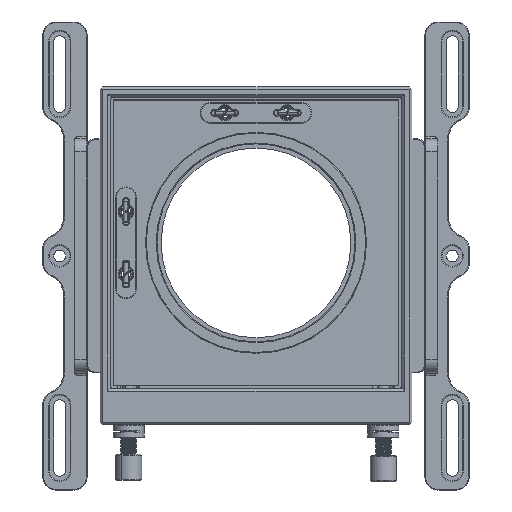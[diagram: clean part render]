
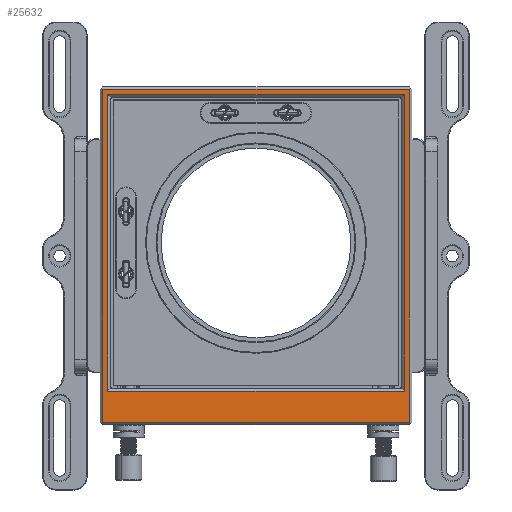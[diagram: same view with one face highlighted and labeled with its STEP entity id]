
A CAD part, top view. The second image highlights one B-rep face of the part: STEP entity #25632.
In plain terms, the highlighted planar face has unit normal (0, 0, 1).
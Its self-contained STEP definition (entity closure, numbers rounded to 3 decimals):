
#159 = CARTESIAN_POINT ( 'NONE',  ( -57., 62., 15. ) ) ;
#1436 = DIRECTION ( 'NONE',  ( 0., 1., 0. ) ) ;
#2262 = LINE ( 'NONE', #17510, #2837 ) ;
#2643 = LINE ( 'NONE', #25426, #45188 ) ;
#2837 = VECTOR ( 'NONE', #48581, 1000. ) ;
#4557 = ORIENTED_EDGE ( 'NONE', *, *, #35922, .T. ) ;
#4634 = VERTEX_POINT ( 'NONE', #159 ) ;
#5487 = LINE ( 'NONE', #12982, #19523 ) ;
#5682 = VERTEX_POINT ( 'NONE', #40859 ) ;
#6367 = ORIENTED_EDGE ( 'NONE', *, *, #40647, .T. ) ;
#10211 = CARTESIAN_POINT ( 'NONE',  ( 57., 62., 15. ) ) ;
#11444 = EDGE_LOOP ( 'NONE', ( #42173, #35421, #35136, #40893 ) ) ;
#11628 = CARTESIAN_POINT ( 'NONE',  ( -57., -52., 15. ) ) ;
#11693 = VECTOR ( 'NONE', #31226, 1000. ) ;
#11727 = LINE ( 'NONE', #34797, #28456 ) ;
#11904 = CARTESIAN_POINT ( 'NONE',  ( -60., 64., 15. ) ) ;
#12034 = DIRECTION ( 'NONE',  ( 1., 0., 0. ) ) ;
#12074 = VERTEX_POINT ( 'NONE', #23474 ) ;
#12982 = CARTESIAN_POINT ( 'NONE',  ( 57., -51., 15. ) ) ;
#14064 = CARTESIAN_POINT ( 'NONE',  ( -59., 64., 15. ) ) ;
#14225 = ORIENTED_EDGE ( 'NONE', *, *, #31210, .T. ) ;
#15923 = LINE ( 'NONE', #11904, #11693 ) ;
#16551 = CARTESIAN_POINT ( 'NONE',  ( 59., -64., 15. ) ) ;
#17510 = CARTESIAN_POINT ( 'NONE',  ( 60., -64., 15. ) ) ;
#18224 = VERTEX_POINT ( 'NONE', #24258 ) ;
#19258 = VECTOR ( 'NONE', #1436, 1000. ) ;
#19523 = VECTOR ( 'NONE', #47808, 1000. ) ;
#19572 = PLANE ( 'NONE',  #20645 ) ;
#20204 = VECTOR ( 'NONE', #44097, 1000. ) ;
#20571 = CARTESIAN_POINT ( 'NONE',  ( -56., -52., 15. ) ) ;
#20645 = AXIS2_PLACEMENT_3D ( 'NONE', #34876, #46386, #12034 ) ;
#23285 = VERTEX_POINT ( 'NONE', #14064 ) ;
#23474 = CARTESIAN_POINT ( 'NONE',  ( -59., -64., 15. ) ) ;
#23858 = EDGE_CURVE ( 'NONE', #18224, #23285, #15923, .T. ) ;
#24258 = CARTESIAN_POINT ( 'NONE',  ( 59., 64., 15. ) ) ;
#24449 = LINE ( 'NONE', #28458, #19258 ) ;
#25426 = CARTESIAN_POINT ( 'NONE',  ( -57., 61., 15. ) ) ;
#25632 = ADVANCED_FACE ( 'NONE', ( #27106, #42390 ), #19572, .T. ) ;
#26951 = VERTEX_POINT ( 'NONE', #16551 ) ;
#27036 = DIRECTION ( 'NONE',  ( 0., -1., 0. ) ) ;
#27106 = FACE_BOUND ( 'NONE', #28936, .T. ) ;
#28456 = VECTOR ( 'NONE', #27036, 1000. ) ;
#28458 = CARTESIAN_POINT ( 'NONE',  ( 59., 65., 15. ) ) ;
#28808 = LINE ( 'NONE', #20571, #20204 ) ;
#28936 = EDGE_LOOP ( 'NONE', ( #6367, #4557, #14225, #36122 ) ) ;
#30203 = LINE ( 'NONE', #31433, #46749 ) ;
#31210 = EDGE_CURVE ( 'NONE', #33886, #5682, #5487, .T. ) ;
#31226 = DIRECTION ( 'NONE',  ( -1., 0., 0. ) ) ;
#31433 = CARTESIAN_POINT ( 'NONE',  ( 56., 62., 15. ) ) ;
#32652 = EDGE_CURVE ( 'NONE', #12074, #26951, #2262, .T. ) ;
#33886 = VERTEX_POINT ( 'NONE', #10211 ) ;
#34797 = CARTESIAN_POINT ( 'NONE',  ( -59., -65., 15. ) ) ;
#34876 = CARTESIAN_POINT ( 'NONE',  ( 0., 0., 15. ) ) ;
#35136 = ORIENTED_EDGE ( 'NONE', *, *, #46820, .T. ) ;
#35421 = ORIENTED_EDGE ( 'NONE', *, *, #32652, .T. ) ;
#35922 = EDGE_CURVE ( 'NONE', #4634, #33886, #30203, .T. ) ;
#36122 = ORIENTED_EDGE ( 'NONE', *, *, #48370, .T. ) ;
#36146 = VERTEX_POINT ( 'NONE', #11628 ) ;
#36709 = DIRECTION ( 'NONE',  ( 0., 1., 0. ) ) ;
#37022 = EDGE_CURVE ( 'NONE', #23285, #12074, #11727, .T. ) ;
#40647 = EDGE_CURVE ( 'NONE', #36146, #4634, #2643, .T. ) ;
#40859 = CARTESIAN_POINT ( 'NONE',  ( 57., -52., 15. ) ) ;
#40893 = ORIENTED_EDGE ( 'NONE', *, *, #23858, .T. ) ;
#42173 = ORIENTED_EDGE ( 'NONE', *, *, #37022, .T. ) ;
#42390 = FACE_OUTER_BOUND ( 'NONE', #11444, .T. ) ;
#44097 = DIRECTION ( 'NONE',  ( -1., 0., 0. ) ) ;
#45188 = VECTOR ( 'NONE', #36709, 1000. ) ;
#46386 = DIRECTION ( 'NONE',  ( 0., 0., 1. ) ) ;
#46749 = VECTOR ( 'NONE', #46965, 1000. ) ;
#46820 = EDGE_CURVE ( 'NONE', #26951, #18224, #24449, .T. ) ;
#46965 = DIRECTION ( 'NONE',  ( 1., 0., 0. ) ) ;
#47808 = DIRECTION ( 'NONE',  ( 0., -1., 0. ) ) ;
#48370 = EDGE_CURVE ( 'NONE', #5682, #36146, #28808, .T. ) ;
#48581 = DIRECTION ( 'NONE',  ( 1., 0., 0. ) ) ;
